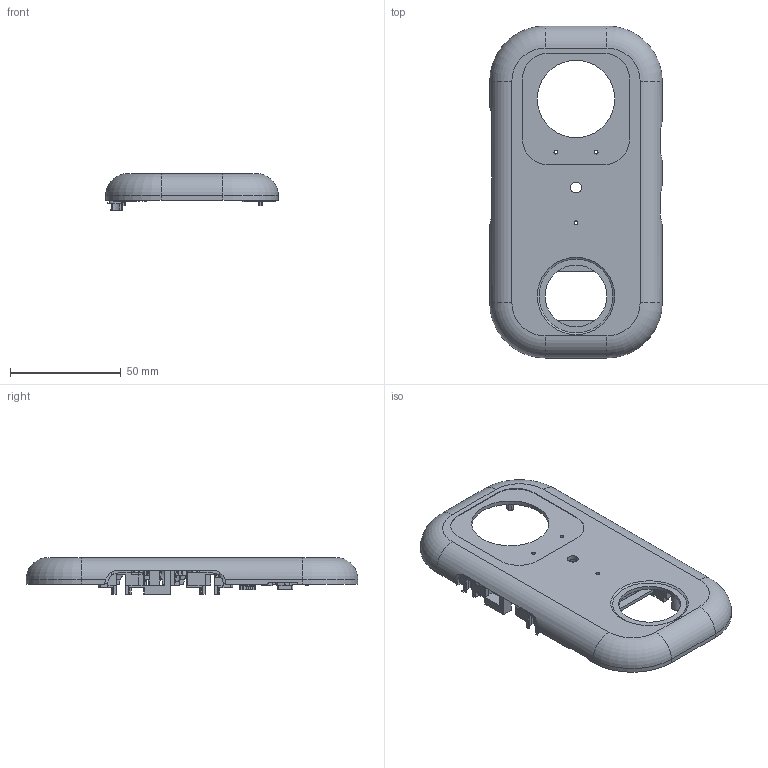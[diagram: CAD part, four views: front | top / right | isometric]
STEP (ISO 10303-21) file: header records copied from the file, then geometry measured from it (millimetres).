
FILE_DESCRIPTION(('Open CASCADE Model'),'2;1');
FILE_NAME('Open CASCADE Shape Model','2026-09-15T15:10:09',('Author'),( 'Open CASCADE'),'Open CASCADE STEP processor 7.7','Open CASCADE 7.7' ,'Unknown');
FILE_SCHEMA(('AUTOMOTIVE_DESIGN { 1 0 10303 214 1 1 1 1 }'));
Length unit declared in the file: millimetre
Products named in the file (1): Open CASCADE STEP translator 7.7 1
Bounding box: 78 x 150 x 16.6 mm (x, y, z)
Volume: 34311.1 mm3; surface area: 35202.9 mm2
Topology: 1 solids, 1 shells, 1406 faces, 3992 edges, 2629 vertices
Faces by surface type: plane 862, cylinder 417, bspline 59, torus 57, cone 11
Full cylindrical faces by diameter (mm): 1.65 x2, 1.7 x13, 1.8 x5, 1.85 x1, 2.1 x6, 3 x3, 4.2 x2, 4.9 x1, 5.7 x1, 6 x1, 27.9 x1, 35 x1
Entity records: 131199 total; most frequent: CARTESIAN_POINT 54956, DIRECTION 13281, ORIENTED_EDGE 7984, PCURVE 7984, DEFINITIONAL_REPRESENTATION 7984, LINE 7950, VECTOR 7950, EDGE_CURVE 3992
